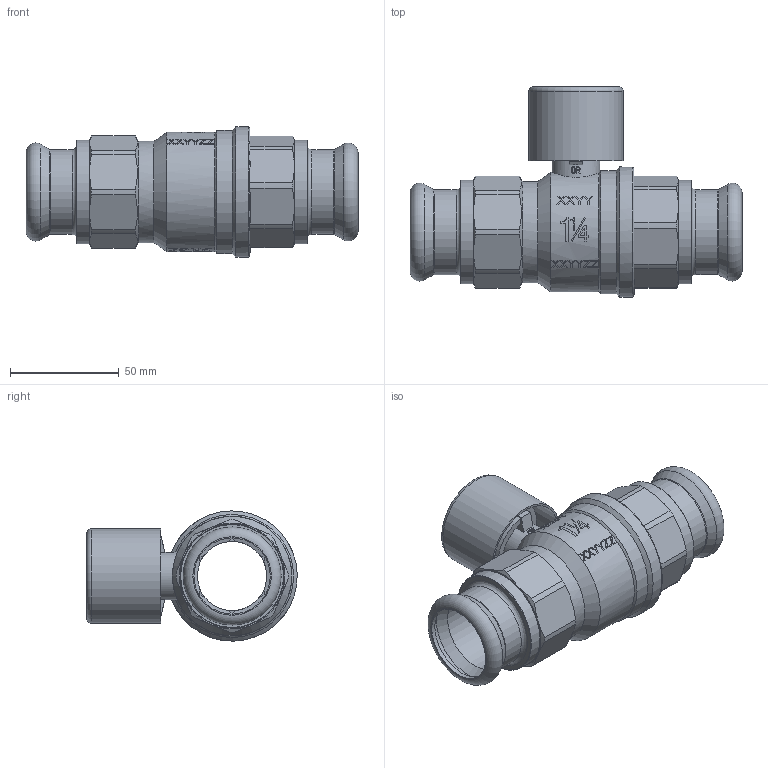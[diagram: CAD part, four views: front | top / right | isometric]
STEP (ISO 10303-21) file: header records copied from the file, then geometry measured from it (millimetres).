
FILE_DESCRIPTION((''),'2;1');
FILE_NAME('P:\Fastrack\53972_CRANE 3D\Press Fit\D171A\Lockshield\35MM\D171ALS-PF-35MM.stp','2011-11-18T15:15:22',('dcole'),(''),'Autodesk Inventor 2008','Autodesk Inventor 2008','');
FILE_SCHEMA(('AUTOMOTIVE_DESIGN { 1 0 10303 214 1 1 1 1 }'));
Length unit declared in the file: millimetre
Products named in the file (1): D171ALS-PF-35MM
Bounding box: 152.4 x 96.6 x 59.79 mm (x, y, z)
Volume: 167366.9 mm3; surface area: 69652.4 mm2
Topology: 1 solids, 1 shells, 905 faces, 2476 edges, 1644 vertices
Faces by surface type: plane 474, bspline 236, cylinder 109, cone 78, torus 8
Full cylindrical faces by diameter (mm): 2 x1, 12 x1, 12.1 x2, 12.5 x1, 16 x1, 16.3 x1, 16.5 x2, 22 x1, 28.2 x1, 30 x2, 32 x5, 35 x4, 36 x2, 38.952 x2, 39 x2, 41.4 x1, 43.4 x1, 46.5 x1, 47.6 x2, 54.8 x1, 56.5 x1, 59.8 x1
Entity records: 57979 total; most frequent: CARTESIAN_POINT 36508, ORIENTED_EDGE 4726, DIRECTION 3546, EDGE_CURVE 2363, VERTEX_POINT 1613, VECTOR 1326, LINE 1326, AXIS2_PLACEMENT_3D 1110
